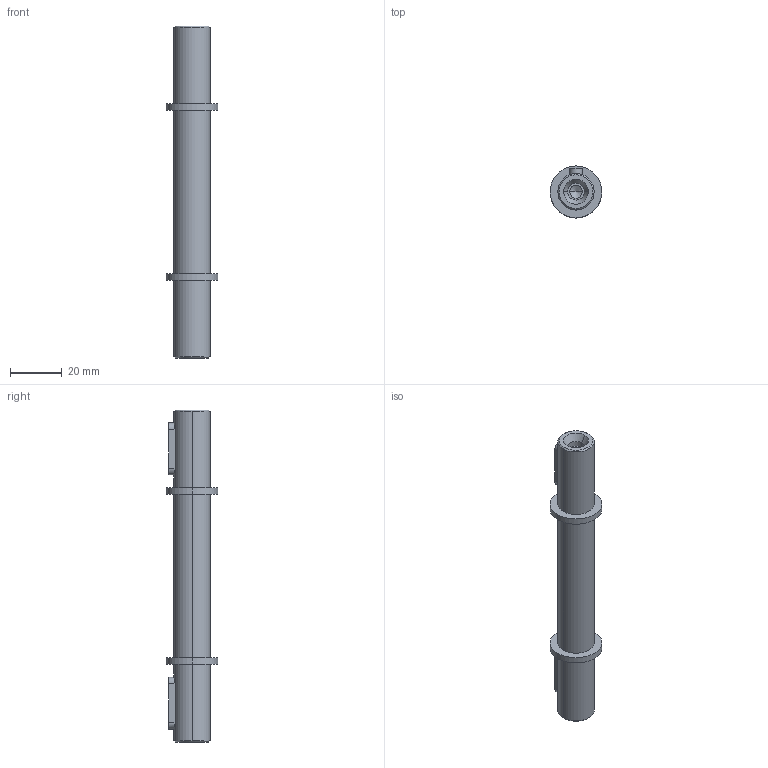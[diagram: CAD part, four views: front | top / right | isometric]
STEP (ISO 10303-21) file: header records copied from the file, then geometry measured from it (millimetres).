
FILE_DESCRIPTION(/* description */ (''),/* implementation_level */ '2;1');
FILE_NAME(/* name */ '2_ALBERO LENTO BISPORGENTE NMRV030',/* time_stamp */ '2025-10-09T13:54:57+02:00',/* author */ (''),/* organization */ (''),/* preprocessor_version */ 'ST-DEVELOPER v19.2',/* originating_system */ 'Rhino 8.23',/* authorisation */ '');
FILE_SCHEMA (('CONFIG_CONTROL_DESIGN'));
Length unit declared in the file: millimetre
Products named in the file (1): Document
Bounding box: 20 x 20 x 128 mm (x, y, z)
Surface area: 7530.3 mm2 (no closed solid volume)
Topology: 0 solids, 33 shells, 48 faces, 157 edges, 125 vertices
Faces by surface type: cylinder 22, plane 14, bspline 12
Entity records: 2044 total; most frequent: CARTESIAN_POINT 684, DIRECTION 206, ORIENTED_EDGE 183, EDGE_CURVE 153, VERTEX_POINT 125, AXIS2_PLACEMENT_3D 121, CIRCLE 83, B_SPLINE_CURVE_WITH_KNOTS 70
